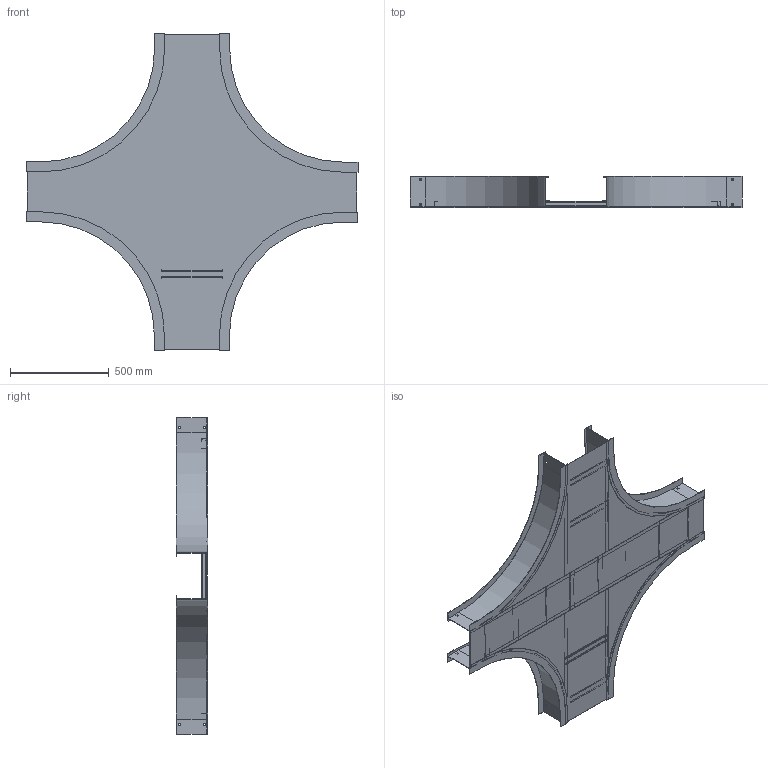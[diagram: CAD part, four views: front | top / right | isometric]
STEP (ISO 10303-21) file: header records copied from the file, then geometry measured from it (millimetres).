
FILE_DESCRIPTION((''),'2;1');
FILE_NAME('AHF60912SEX24_ASM','2010-02-01T',('erouzier'),(''),'PRO/ENGINEER BY PARAMETRIC TECHNOLOGY CORPORATION, 2008510','PRO/ENGINEER BY PARAMETRIC TECHNOLOGY CORPORATION, 2008510','');
FILE_SCHEMA(('CONFIG_CONTROL_DESIGN'));
Length unit declared in the file: inch
Products named in the file (18): CDS001812-6-90-24-I; CDS002159L9_AF8; CDS002159L9_AF9; CDS002159L9_AF10; CDS002159L9_AF11; CDS002159L9_AF12; CDS002159L9_AF13; CDS002159L9_AF14; CDS002159L9_AF15; CDS000495_GEN_AF18; CDS000495_GEN_AF19; CDS000495_GEN_AF22; CDS000495_GEN_AF23; CDS000495_GEN_AF20; CDS000495_GEN_AF21; CDS002159L12; CDS014308-9-24-12; AHF60912SEX24_ASM
Assembly tree (23 placements, depth 2):
  AHF60912SEX24_ASM
    CDS001812-6-90-24-I  x4
    CDS002159L9_AF8
    CDS002159L9_AF9
    CDS002159L9_AF10
    CDS002159L9_AF11
    CDS002159L9_AF12
    CDS002159L9_AF13
    CDS002159L9_AF14
    CDS002159L9_AF15
    CDS000495_GEN_AF18
    CDS000495_GEN_AF19
    CDS000495_GEN_AF22
    CDS000495_GEN_AF23
    CDS000495_GEN_AF20
    CDS000495_GEN_AF21
    CDS002159L12  x4
    CDS014308-9-24-12
Bounding box: 1681.48 x 157.99 x 1605.28 mm (x, y, z)
Volume: 5233540.9 mm3; surface area: 5912409.1 mm2
Topology: 23 solids, 23 shells, 606 faces, 1680 edges, 1120 vertices
Faces by surface type: plane 446, cylinder 160
Entity records: 12805 total; most frequent: CARTESIAN_POINT 2211, DIRECTION 2148, ORIENTED_EDGE 2136, EDGE_CURVE 1068, VECTOR 850, LINE 850, VERTEX_POINT 712, AXIS2_PLACEMENT_3D 649
